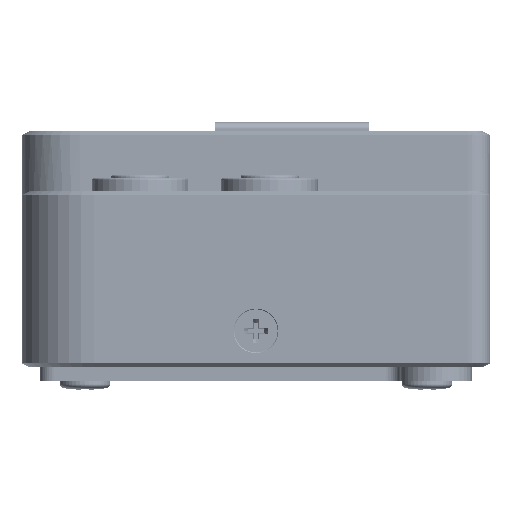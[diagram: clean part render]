
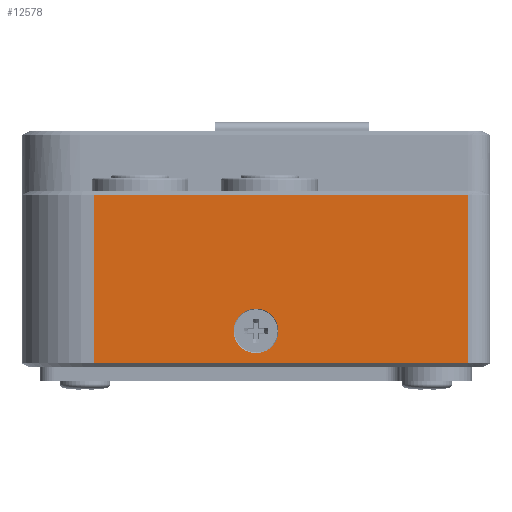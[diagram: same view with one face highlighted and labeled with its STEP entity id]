
A CAD part, left-side view. The second image highlights one B-rep face of the part: STEP entity #12578.
In plain terms, the highlighted planar face has unit normal (-1, 0, 0).
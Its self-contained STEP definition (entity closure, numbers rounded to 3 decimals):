
#2996=DIRECTION('',(0.,-1.,0.));
#2997=VECTOR('',#2996,52.);
#2998=CARTESIAN_POINT('',(-60.,21.5,
-8.3));
#2999=LINE('',#2998,#2997);
#3003=DIRECTION('',(0.,1.,0.));
#3004=VECTOR('',#3003,52.);
#3005=CARTESIAN_POINT('',(-60.,-30.5,
-31.7));
#3006=LINE('',#3005,#3004);
#3010=CARTESIAN_POINT('',(-60.,-1.,-27.2));
#3011=DIRECTION('',(-1.,0.,0.));
#3012=DIRECTION('',(0.,-1.,0.));
#3013=AXIS2_PLACEMENT_3D('',#3010,#3011,#3012);
#3018=CARTESIAN_POINT('',(-60.,-1.,-27.2));
#3019=DIRECTION('',(-1.,0.,0.));
#3020=DIRECTION('',(0.,0.,1.));
#3021=AXIS2_PLACEMENT_3D('',#3018,#3019,#3020);
#3026=CARTESIAN_POINT('',(-60.,-1.,-27.2));
#3027=DIRECTION('',(-1.,0.,0.));
#3028=DIRECTION('',(0.,1.,0.));
#3029=AXIS2_PLACEMENT_3D('',#3026,#3027,#3028);
#3034=CARTESIAN_POINT('',(-60.,-1.,-27.2));
#3035=DIRECTION('',(-1.,0.,0.));
#3036=DIRECTION('',(0.,0.,-1.));
#3037=AXIS2_PLACEMENT_3D('',#3034,#3035,#3036);
#3254=DIRECTION('',(0.,0.,1.));
#3255=VECTOR('',#3254,23.4);
#3256=CARTESIAN_POINT('',(-60.,-30.5,
-31.7));
#3257=LINE('',#3256,#3255);
#3312=DIRECTION('',(0.,0.,-1.));
#3313=VECTOR('',#3312,23.4);
#3314=CARTESIAN_POINT('',(-60.,21.5,
-8.3));
#3315=LINE('',#3314,#3313);
#9437=CARTESIAN_POINT('',(-60.,-1.001,-30.3));
#9438=VERTEX_POINT('',#9437);
#9439=CARTESIAN_POINT('',(-60.,2.1,-27.201));
#9440=VERTEX_POINT('',#9439);
#9441=CARTESIAN_POINT('',(-60.,-1.,-24.1));
#9442=VERTEX_POINT('',#9441);
#9443=CARTESIAN_POINT('',(-60.,-4.1,-27.199));
#9444=VERTEX_POINT('',#9443);
#9445=CARTESIAN_POINT('',(-60.,21.5,
-8.3));
#9446=CARTESIAN_POINT('',(-60.,-30.5,
-8.3));
#9447=VERTEX_POINT('',#9445);
#9448=VERTEX_POINT('',#9446);
#9449=CARTESIAN_POINT('',(-60.,-30.5,
-31.7));
#9450=VERTEX_POINT('',#9449);
#9451=CARTESIAN_POINT('',(-60.,21.5,
-31.7));
#9452=VERTEX_POINT('',#9451);
#12557=CARTESIAN_POINT('',(-60.,31.5,-32.2));
#12558=DIRECTION('',(-1.,0.,0.));
#12559=DIRECTION('',(0.,0.,-1.));
#12560=AXIS2_PLACEMENT_3D('',#12557,#12558,#12559);
#12561=PLANE('',#12560);
#12563=ORIENTED_EDGE('',*,*,#12562,.T.);
#12565=ORIENTED_EDGE('',*,*,#12564,.F.);
#12567=ORIENTED_EDGE('',*,*,#12566,.T.);
#12569=ORIENTED_EDGE('',*,*,#12568,.F.);
#12570=EDGE_LOOP('',(#12563,#12565,#12567,#12569));
#12571=FACE_OUTER_BOUND('',#12570,.F.);
#12572=ORIENTED_EDGE('',*,*,#12524,.T.);
#12573=ORIENTED_EDGE('',*,*,#12522,.T.);
#12574=ORIENTED_EDGE('',*,*,#12520,.T.);
#12575=ORIENTED_EDGE('',*,*,#12539,.T.);
#12576=EDGE_LOOP('',(#12572,#12573,#12574,#12575));
#12577=FACE_BOUND('',#12576,.F.);
#3014=CIRCLE('',#3013,3.1);
#3022=CIRCLE('',#3021,3.1);
#3030=CIRCLE('',#3029,3.1);
#3038=CIRCLE('',#3037,3.1);
#12520=EDGE_CURVE('',#9440,#9438,#3030,.T.);
#12522=EDGE_CURVE('',#9442,#9440,#3022,.T.);
#12524=EDGE_CURVE('',#9444,#9442,#3014,.T.);
#12539=EDGE_CURVE('',#9438,#9444,#3038,.T.);
#12562=EDGE_CURVE('',#9447,#9448,#2999,.T.);
#12564=EDGE_CURVE('',#9450,#9448,#3257,.T.);
#12566=EDGE_CURVE('',#9450,#9452,#3006,.T.);
#12568=EDGE_CURVE('',#9447,#9452,#3315,.T.);
#12578=ADVANCED_FACE('',(#12571,#12577),#12561,.T.);
